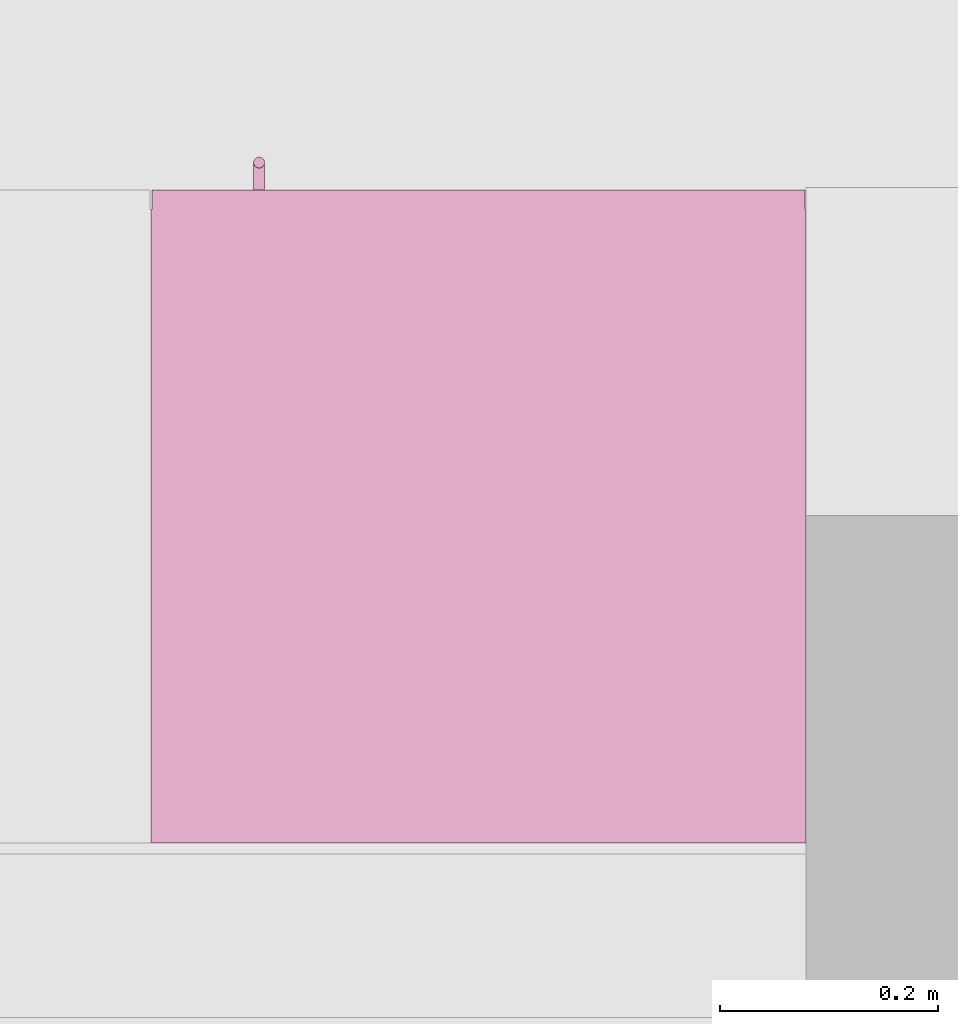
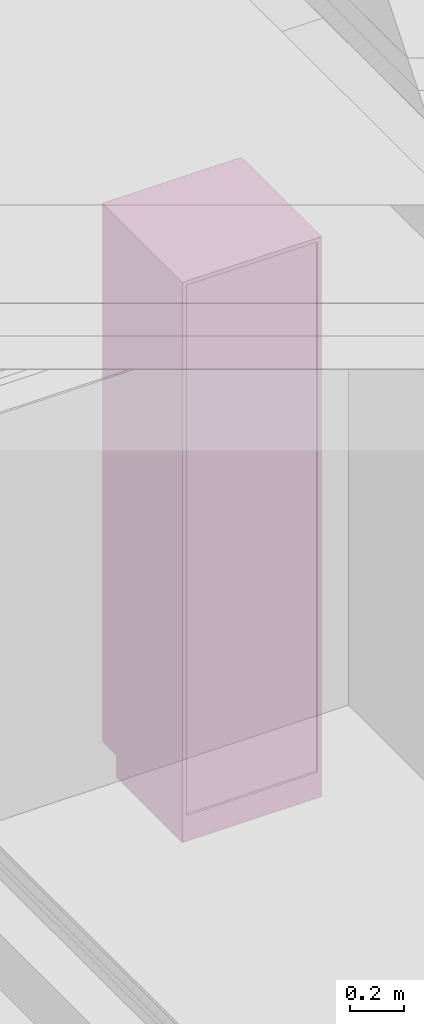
# One storey, part 35 of 36: 1 furniture element.
"""IFC4 building model written with IfcOpenShell, lengths in millimetres."""

from ifc_helpers import new_model, entity, si_unit, converted_unit, derived_unit, direction, frame, origin_with_axes, place, context, subcontext, project, spatial, polygons, source, transform, mapped, type_object, element, save


model = new_model("IFC4")

# Units and contexts
model_context = context("Model", 3, precision=0.01, world=origin_with_axes(), true_north=direction((0.0, 1.0)))
body_context = subcontext(model_context, "Body", "Model", "MODEL_VIEW")
ifc_project = project(units=[si_unit("LENGTHUNIT", "METRE", prefix="MILLI"), si_unit("AREAUNIT", "SQUARE_METRE"), si_unit("VOLUMEUNIT", "CUBIC_METRE"), converted_unit("PLANEANGLEUNIT", "DEGREE", entity("IfcPlaneAngleMeasure", 0.0174532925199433), si_unit("PLANEANGLEUNIT", "RADIAN"), dimensions=[0, 0, 0, 0, 0, 0, 0]), converted_unit("TIMEUNIT", "Year", entity("IfcTimeMeasure", 31557600.0), si_unit("TIMEUNIT", "SECOND"), dimensions=[0, 0, 1, 0, 0, 0, 0]), si_unit("MASSUNIT", "GRAM", prefix="KILO"), si_unit("THERMODYNAMICTEMPERATUREUNIT", "DEGREE_CELSIUS"), si_unit("LUMINOUSINTENSITYUNIT", "LUMEN"), si_unit("ENERGYUNIT", "JOULE", prefix="MEGA"), derived_unit("THERMALCONDUCTANCEUNIT", [(si_unit("POWERUNIT", "WATT"), 1), (si_unit("LENGTHUNIT", "METRE"), -1), (si_unit("THERMODYNAMICTEMPERATUREUNIT", "KELVIN"), -1)]), derived_unit("SPECIFICHEATCAPACITYUNIT", [(si_unit("ENERGYUNIT", "JOULE"), 1), (si_unit("MASSUNIT", "GRAM", prefix="KILO"), -1), (si_unit("THERMODYNAMICTEMPERATUREUNIT", "KELVIN"), -1)]), derived_unit("MASSDENSITYUNIT", [(si_unit("MASSUNIT", "GRAM", prefix="KILO"), 1), (si_unit("VOLUMEUNIT", "CUBIC_METRE"), -1)])], contexts=[model_context])

# Site, building, storey
site_placement = place(None, origin_with_axes())
site = spatial("IfcSite", under=ifc_project, at=site_placement, Name="Gelände", CompositionType="ELEMENT")
building_placement = place(site_placement, origin_with_axes())
building = spatial("IfcBuilding", under=site, at=building_placement, Name="Gebäude", CompositionType="ELEMENT")
storey_placement = place(building_placement, frame((0.0, 0.0, 8700.0), z_axis=(0.0, 0.0, 1.0), x_axis=(1.0, 0.0, 0.0)))
storey = spatial("IfcBuildingStorey", under=building, at=storey_placement, Name="Attika", CompositionType="ELEMENT", Elevation=8700.0)

# Furniture
furniture_type = type_object("IfcFurnitureType", Name="Stehender Schrank Block 27", AssemblyPlace="NOTDEFINED", PredefinedType="NOTDEFINED")
shared_shape = source(origin_with_axes(), body_context, "Body", "Tessellation", [
    polygons([(501.8682408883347, -597.9999999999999, 1377.799012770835), (502.7101007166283, -597.9999999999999, 1377.573437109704), (503.4999999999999, -597.9999999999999, 1377.205101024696), (504.2139380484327, -597.9999999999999, 1376.705196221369), (504.8302222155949, -597.9999999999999, 1376.088912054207), (505.3301270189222, -597.9999999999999, 1375.374974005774), (505.6984631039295, -597.9999999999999, 1374.585074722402), (505.924038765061, -597.9999999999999, 1373.743214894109), (506.0, -597.9999999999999, 1372.874974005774), (505.924038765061, -597.9999999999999, 1372.00673311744), (505.6984631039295, -597.9999999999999, 1371.164873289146), (505.3301270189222, -597.9999999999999, 1370.374974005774), (504.8302222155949, -597.9999999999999, 1369.661035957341), (504.2139380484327, -597.9999999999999, 1369.044751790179), (503.4999999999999, -597.9999999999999, 1368.544846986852), (502.7101007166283, -597.9999999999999, 1368.176510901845), (501.8682408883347, -597.9999999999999, 1367.950935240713), (501.0, -597.9999999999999, 1367.874974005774), (500.1317591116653, -597.9999999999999, 1367.950935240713), (499.2898992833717, -597.9999999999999, 1368.176510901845), (498.5, -597.9999999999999, 1368.544846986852), (497.7860619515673, -597.9999999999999, 1369.044751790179), (497.1697777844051, -597.9999999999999, 1369.661035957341), (496.6698729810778, -597.9999999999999, 1370.374974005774), (496.3015368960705, -597.9999999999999, 1371.164873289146), (496.075961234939, -597.9999999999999, 1372.00673311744), (496.0, -597.9999999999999, 1372.874974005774), (496.075961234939, -597.9999999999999, 1373.743214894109), (496.3015368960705, -597.9999999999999, 1374.585074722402), (496.6698729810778, -597.9999999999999, 1375.374974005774), (497.1697777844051, -597.9999999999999, 1376.088912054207), (497.7860619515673, -597.9999999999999, 1376.705196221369), (498.5, -597.9999999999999, 1377.205101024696), (499.2898992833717, -597.9999999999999, 1377.573437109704), (500.1317591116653, -597.9999999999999, 1377.799012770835), (501.0, -597.9999999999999, 1377.874974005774), (501.8682408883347, -622.9999999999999, 1377.799012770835), (502.7101007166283, -622.9999999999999, 1377.573437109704), (503.4999999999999, -622.9999999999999, 1377.205101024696), (504.2139380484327, -622.9999999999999, 1376.705196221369), (504.8302222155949, -622.9999999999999, 1376.088912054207), (505.3301270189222, -622.9999999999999, 1375.374974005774), (505.6984631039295, -622.9999999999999, 1374.585074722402), (505.924038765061, -622.9999999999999, 1373.743214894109), (506.0, -622.9999999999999, 1372.874974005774), (505.924038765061, -622.9999999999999, 1372.00673311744), (505.6984631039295, -622.9999999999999, 1371.164873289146), (505.3301270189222, -622.9999999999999, 1370.374974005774), (504.8302222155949, -622.9999999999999, 1369.661035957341), (504.2139380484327, -622.9999999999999, 1369.044751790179), (503.4999999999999, -622.9999999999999, 1368.544846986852), (502.7101007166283, -622.9999999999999, 1368.176510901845), (501.8682408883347, -622.9999999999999, 1367.950935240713), (501.0, -622.9999999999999, 1367.874974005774), (500.1317591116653, -622.9999999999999, 1367.950935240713), (499.2898992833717, -622.9999999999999, 1368.176510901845), (498.5, -622.9999999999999, 1368.544846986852), (497.7860619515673, -622.9999999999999, 1369.044751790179), (497.1697777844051, -622.9999999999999, 1369.661035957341), (496.6698729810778, -622.9999999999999, 1370.374974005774), (496.3015368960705, -622.9999999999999, 1371.164873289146), (496.075961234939, -622.9999999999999, 1372.00673311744), (496.0, -622.9999999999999, 1372.874974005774), (496.075961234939, -622.9999999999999, 1373.743214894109), (496.3015368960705, -622.9999999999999, 1374.585074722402), (496.6698729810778, -622.9999999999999, 1375.374974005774), (497.1697777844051, -622.9999999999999, 1376.088912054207), (497.7860619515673, -622.9999999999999, 1376.705196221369), (498.5, -622.9999999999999, 1377.205101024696), (499.2898992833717, -622.9999999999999, 1377.573437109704), (500.1317591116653, -622.9999999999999, 1377.799012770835), (501.0, -622.9999999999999, 1377.874974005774)], [[[1, 2, 3, 4, 5, 6, 7, 8, 9, 10, 11, 12, 13, 14, 15, 16, 17, 18, 19, 20, 21, 22, 23, 24, 25, 26, 27, 28, 29, 30, 31, 32, 33, 34, 35, 36]], [[2, 1, 37, 38]], [[3, 2, 38, 39]], [[4, 3, 39, 40]], [[5, 4, 40, 41]], [[6, 5, 41, 42]], [[7, 6, 42, 43]], [[8, 7, 43, 44]], [[9, 8, 44, 45]], [[10, 9, 45, 46]], [[11, 10, 46, 47]], [[12, 11, 47, 48]], [[13, 12, 48, 49]], [[14, 13, 49, 50]], [[15, 14, 50, 51]], [[16, 15, 51, 52]], [[17, 16, 52, 53]], [[18, 17, 53, 54]], [[19, 18, 54, 55]], [[20, 19, 55, 56]], [[21, 20, 56, 57]], [[22, 21, 57, 58]], [[23, 22, 58, 59]], [[24, 23, 59, 60]], [[25, 24, 60, 61]], [[26, 25, 61, 62]], [[27, 26, 62, 63]], [[28, 27, 63, 64]], [[29, 28, 64, 65]], [[30, 29, 65, 66]], [[31, 30, 66, 67]], [[32, 31, 67, 68]], [[33, 32, 68, 69]], [[34, 33, 69, 70]], [[35, 34, 70, 71]], [[36, 35, 71, 72]], [[1, 36, 72, 37]], [[37, 72, 71, 70, 69, 68, 67, 66, 65, 64, 63, 62, 61, 60, 59, 58, 57, 56, 55, 54, 53, 52, 51, 50, 49, 48, 47, 46, 45, 44, 43, 42, 41, 40, 39, 38]]], closed=True),
    polygons([(501.8682408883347, -597.9999999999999, 1274.200935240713), (501.0, -597.9999999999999, 1274.124974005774), (500.1317591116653, -597.9999999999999, 1274.200935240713), (499.2898992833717, -597.9999999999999, 1274.426510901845), (498.5, -597.9999999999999, 1274.794846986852), (497.7860619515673, -597.9999999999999, 1275.294751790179), (497.1697777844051, -597.9999999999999, 1275.911035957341), (496.6698729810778, -597.9999999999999, 1276.624974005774), (496.3015368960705, -597.9999999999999, 1277.414873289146), (496.075961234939, -597.9999999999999, 1278.25673311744), (496.0, -597.9999999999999, 1279.124974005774), (496.075961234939, -597.9999999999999, 1279.993214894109), (496.3015368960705, -597.9999999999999, 1280.835074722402), (496.6698729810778, -597.9999999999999, 1281.624974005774), (497.1697777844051, -597.9999999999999, 1282.338912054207), (497.7860619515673, -597.9999999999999, 1282.955196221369), (498.5, -597.9999999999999, 1283.455101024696), (499.2898992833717, -597.9999999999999, 1283.823437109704), (500.1317591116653, -597.9999999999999, 1284.049012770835), (501.0, -597.9999999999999, 1284.124974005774), (501.8682408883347, -597.9999999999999, 1284.049012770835), (502.7101007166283, -597.9999999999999, 1283.823437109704), (503.4999999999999, -597.9999999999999, 1283.455101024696), (504.2139380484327, -597.9999999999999, 1282.955196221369), (504.8302222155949, -597.9999999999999, 1282.338912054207), (505.3301270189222, -597.9999999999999, 1281.624974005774), (505.6984631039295, -597.9999999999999, 1280.835074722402), (505.924038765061, -597.9999999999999, 1279.993214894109), (506.0, -597.9999999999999, 1279.124974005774), (505.924038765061, -597.9999999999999, 1278.25673311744), (505.6984631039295, -597.9999999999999, 1277.414873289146), (505.3301270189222, -597.9999999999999, 1276.624974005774), (504.8302222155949, -597.9999999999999, 1275.911035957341), (504.2139380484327, -597.9999999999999, 1275.294751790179), (503.4999999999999, -597.9999999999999, 1274.794846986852), (502.7101007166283, -597.9999999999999, 1274.426510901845), (501.8682408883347, -622.9999999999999, 1274.200935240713), (501.0, -622.9999999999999, 1274.124974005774), (500.1317591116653, -622.9999999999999, 1274.200935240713), (499.2898992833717, -622.9999999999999, 1274.426510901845), (498.5, -622.9999999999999, 1274.794846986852), (497.7860619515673, -622.9999999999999, 1275.294751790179), (497.1697777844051, -622.9999999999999, 1275.911035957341), (496.6698729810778, -622.9999999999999, 1276.624974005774), (496.3015368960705, -622.9999999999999, 1277.414873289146), (496.075961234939, -622.9999999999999, 1278.25673311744), (496.0, -622.9999999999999, 1279.124974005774), (496.075961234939, -622.9999999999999, 1279.993214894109), (496.3015368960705, -622.9999999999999, 1280.835074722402), (496.6698729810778, -622.9999999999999, 1281.624974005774), (497.1697777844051, -622.9999999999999, 1282.338912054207), (497.7860619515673, -622.9999999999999, 1282.955196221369), (498.5, -622.9999999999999, 1283.455101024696), (499.2898992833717, -622.9999999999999, 1283.823437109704), (500.1317591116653, -622.9999999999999, 1284.049012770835), (501.0, -622.9999999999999, 1284.124974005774), (501.8682408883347, -622.9999999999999, 1284.049012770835), (502.7101007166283, -622.9999999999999, 1283.823437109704), (503.4999999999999, -622.9999999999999, 1283.455101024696), (504.2139380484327, -622.9999999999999, 1282.955196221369), (504.8302222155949, -622.9999999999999, 1282.338912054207), (505.3301270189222, -622.9999999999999, 1281.624974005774), (505.6984631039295, -622.9999999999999, 1280.835074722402), (505.924038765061, -622.9999999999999, 1279.993214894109), (506.0, -622.9999999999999, 1279.124974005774), (505.924038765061, -622.9999999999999, 1278.25673311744), (505.6984631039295, -622.9999999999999, 1277.414873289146), (505.3301270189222, -622.9999999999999, 1276.624974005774), (504.8302222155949, -622.9999999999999, 1275.911035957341), (504.2139380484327, -622.9999999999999, 1275.294751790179), (503.4999999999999, -622.9999999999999, 1274.794846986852), (502.7101007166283, -622.9999999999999, 1274.426510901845)], [[[1, 2, 3, 4, 5, 6, 7, 8, 9, 10, 11, 12, 13, 14, 15, 16, 17, 18, 19, 20, 21, 22, 23, 24, 25, 26, 27, 28, 29, 30, 31, 32, 33, 34, 35, 36]], [[1, 37, 38, 2]], [[2, 38, 39, 3]], [[3, 39, 40, 4]], [[4, 40, 41, 5]], [[5, 41, 42, 6]], [[6, 42, 43, 7]], [[7, 43, 44, 8]], [[8, 44, 45, 9]], [[9, 45, 46, 10]], [[10, 46, 47, 11]], [[11, 47, 48, 12]], [[12, 48, 49, 13]], [[13, 49, 50, 14]], [[14, 50, 51, 15]], [[15, 51, 52, 16]], [[16, 52, 53, 17]], [[17, 53, 54, 18]], [[18, 54, 55, 19]], [[19, 55, 56, 20]], [[20, 56, 57, 21]], [[21, 57, 58, 22]], [[22, 58, 59, 23]], [[23, 59, 60, 24]], [[24, 60, 61, 25]], [[25, 61, 62, 26]], [[26, 62, 63, 27]], [[27, 63, 64, 28]], [[28, 64, 65, 29]], [[29, 65, 66, 30]], [[30, 66, 67, 31]], [[31, 67, 68, 32]], [[32, 68, 69, 33]], [[33, 69, 70, 34]], [[34, 70, 71, 35]], [[35, 71, 72, 36]], [[36, 72, 37, 1]], [[37, 72, 71, 70, 69, 68, 67, 66, 65, 64, 63, 62, 61, 60, 59, 58, 57, 56, 55, 54, 53, 52, 51, 50, 49, 48, 47, 46, 45, 44, 43, 42, 41, 40, 39, 38]]], closed=True),
    polygons([(501.8682408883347, -618.0759612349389, 1250.999974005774), (502.7101007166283, -618.3015368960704, 1250.999974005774), (503.4999999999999, -618.6698729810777, 1250.999974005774), (504.2139380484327, -619.1697777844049, 1250.999974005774), (504.8302222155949, -619.7860619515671, 1250.999974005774), (505.3301270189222, -620.4999999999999, 1250.999974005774), (505.6984631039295, -621.2898992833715, 1250.999974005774), (505.924038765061, -622.1317591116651, 1250.999974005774), (506.0, -622.9999999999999, 1250.999974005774), (505.924038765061, -623.8682408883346, 1250.999974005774), (505.6984631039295, -624.7101007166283, 1250.999974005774), (505.3301270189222, -625.4999999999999, 1250.999974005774), (504.8302222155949, -626.2139380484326, 1250.999974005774), (504.2139380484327, -626.8302222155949, 1250.999974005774), (503.4999999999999, -627.3301270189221, 1250.999974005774), (502.7101007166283, -627.6984631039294, 1250.999974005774), (501.8682408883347, -627.924038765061, 1250.999974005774), (501.0, -627.9999999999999, 1250.999974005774), (500.1317591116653, -627.924038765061, 1250.999974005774), (499.2898992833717, -627.6984631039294, 1250.999974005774), (498.5, -627.3301270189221, 1250.999974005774), (497.7860619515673, -626.8302222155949, 1250.999974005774), (497.1697777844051, -626.2139380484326, 1250.999974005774), (496.6698729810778, -625.4999999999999, 1250.999974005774), (496.3015368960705, -624.7101007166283, 1250.999974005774), (496.075961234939, -623.8682408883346, 1250.999974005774), (496.0, -622.9999999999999, 1250.999974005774), (496.075961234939, -622.1317591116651, 1250.999974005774), (496.3015368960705, -621.2898992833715, 1250.999974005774), (496.6698729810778, -620.4999999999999, 1250.999974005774), (497.1697777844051, -619.7860619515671, 1250.999974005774), (497.7860619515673, -619.1697777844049, 1250.999974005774), (498.5, -618.6698729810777, 1250.999974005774), (499.2898992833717, -618.3015368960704, 1250.999974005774), (500.1317591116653, -618.0759612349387, 1250.999974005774), (501.0, -617.9999999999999, 1250.999974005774), (501.8682408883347, -618.0759612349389, 1400.999974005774), (502.7101007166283, -618.3015368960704, 1400.999974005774), (503.5000000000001, -618.6698729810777, 1400.999974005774), (504.2139380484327, -619.1697777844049, 1400.999974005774), (504.8302222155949, -619.7860619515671, 1400.999974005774), (505.3301270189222, -620.4999999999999, 1400.999974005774), (505.6984631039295, -621.2898992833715, 1400.999974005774), (505.9240387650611, -622.1317591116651, 1400.999974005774), (506.0, -622.9999999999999, 1400.999974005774), (505.9240387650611, -623.8682408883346, 1400.999974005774), (505.6984631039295, -624.7101007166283, 1400.999974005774), (505.3301270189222, -625.4999999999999, 1400.999974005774), (504.8302222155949, -626.2139380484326, 1400.999974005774), (504.2139380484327, -626.8302222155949, 1400.999974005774), (503.5000000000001, -627.3301270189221, 1400.999974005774), (502.7101007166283, -627.6984631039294, 1400.999974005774), (501.8682408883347, -627.924038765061, 1400.999974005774), (501.0, -627.9999999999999, 1400.999974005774), (500.1317591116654, -627.924038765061, 1400.999974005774), (499.2898992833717, -627.6984631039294, 1400.999974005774), (498.5, -627.3301270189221, 1400.999974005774), (497.7860619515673, -626.8302222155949, 1400.999974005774), (497.1697777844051, -626.2139380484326, 1400.999974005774), (496.6698729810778, -625.4999999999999, 1400.999974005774), (496.3015368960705, -624.7101007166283, 1400.999974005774), (496.075961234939, -623.8682408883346, 1400.999974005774), (496.0, -622.9999999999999, 1400.999974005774), (496.075961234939, -622.1317591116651, 1400.999974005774), (496.3015368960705, -621.2898992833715, 1400.999974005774), (496.6698729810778, -620.4999999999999, 1400.999974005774), (497.1697777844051, -619.7860619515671, 1400.999974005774), (497.7860619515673, -619.1697777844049, 1400.999974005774), (498.5, -618.6698729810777, 1400.999974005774), (499.2898992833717, -618.3015368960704, 1400.999974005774), (500.1317591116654, -618.0759612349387, 1400.999974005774), (501.0, -617.9999999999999, 1400.999974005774)], [[[1, 2, 3, 4, 5, 6, 7, 8, 9, 10, 11, 12, 13, 14, 15, 16, 17, 18, 19, 20, 21, 22, 23, 24, 25, 26, 27, 28, 29, 30, 31, 32, 33, 34, 35, 36]], [[2, 1, 37, 38]], [[3, 2, 38, 39]], [[4, 3, 39, 40]], [[5, 4, 40, 41]], [[6, 5, 41, 42]], [[7, 6, 42, 43]], [[8, 7, 43, 44]], [[9, 8, 44, 45]], [[10, 9, 45, 46]], [[11, 10, 46, 47]], [[12, 11, 47, 48]], [[13, 12, 48, 49]], [[14, 13, 49, 50]], [[15, 14, 50, 51]], [[16, 15, 51, 52]], [[17, 16, 52, 53]], [[18, 17, 53, 54]], [[19, 18, 54, 55]], [[20, 19, 55, 56]], [[21, 20, 56, 57]], [[22, 21, 57, 58]], [[23, 22, 58, 59]], [[24, 23, 59, 60]], [[25, 24, 60, 61]], [[26, 25, 61, 62]], [[27, 26, 62, 63]], [[28, 27, 63, 64]], [[29, 28, 64, 65]], [[30, 29, 65, 66]], [[31, 30, 66, 67]], [[32, 31, 67, 68]], [[33, 32, 68, 69]], [[34, 33, 69, 70]], [[35, 34, 70, 71]], [[36, 35, 71, 72]], [[1, 36, 72, 37]], [[37, 72, 71, 70, 69, 68, 67, 66, 65, 64, 63, 62, 61, 60, 59, 58, 57, 56, 55, 54, 53, 52, 51, 50, 49, 48, 47, 46, 45, 44, 43, 42, 41, 40, 39, 38]]], closed=True),
    polygons([(1.0, -580.0, 101.0), (599.0, -580.0, 101.0), (599.0, -598.0, 101.0), (1.0, -598.0, 101.0), (1.0, -579.9999999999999, 2548.999948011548), (599.0, -579.9999999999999, 2548.999948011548), (599.0, -597.9999999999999, 2548.999948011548), (1.0, -597.9999999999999, 2548.999948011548)], [[[1, 2, 3, 4]], [[1, 5, 6, 2]], [[2, 6, 7, 3]], [[4, 3, 7, 8]], [[5, 1, 4, 8]], [[6, 5, 8, 7]]], closed=True),
    polygons([(18.0, -580.0, 100.0), (582.0, -580.0, 100.0), (582.0, -580.0, 118.0), (18.0, -580.0, 118.0), (18.0, 0.0, 100.0), (582.0, 0.0, 100.0), (582.0, 0.0, 118.0), (18.0, 0.0, 118.0)], [[[1, 2, 3, 4]], [[1, 5, 6, 2]], [[2, 6, 7, 3]], [[4, 3, 7, 8]], [[5, 1, 4, 8]], [[6, 5, 8, 7]]], closed=True),
    polygons([(18.0, -580.0, 2531.999948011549), (582.0, -580.0, 2531.999948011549), (582.0, -580.0, 2549.999948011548), (18.0, -580.0, 2549.999948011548), (18.0, 0.0, 2531.999948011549), (582.0, 0.0, 2531.999948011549), (582.0, 0.0, 2549.999948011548), (18.0, 0.0, 2549.999948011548)], [[[1, 2, 3, 4]], [[1, 5, 6, 2]], [[2, 6, 7, 3]], [[4, 3, 7, 8]], [[5, 1, 4, 8]], [[6, 5, 8, 7]]], closed=True),
    polygons([(0.0, 0.0, 100.0), (0.0, -580.0, 100.0), (0.0, -580.0, 2549.999948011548), (0.0, 0.0, 2549.999948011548), (18.0, 0.0, 100.0), (18.0, -580.0, 100.0), (18.0, -580.0, 2549.999948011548), (18.0, 0.0, 2549.999948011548)], [[[1, 2, 3, 4]], [[1, 5, 6, 2]], [[2, 6, 7, 3]], [[4, 3, 7, 8]], [[5, 1, 4, 8]], [[6, 5, 8, 7]]], closed=True),
    polygons([(600.0, -580.0, 100.0), (600.0, 0.0, 100.0), (600.0, 0.0, 2549.999948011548), (600.0, -580.0, 2549.999948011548), (582.0, -580.0, 100.0), (582.0, 0.0, 100.0), (582.0, 0.0, 2549.999948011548), (582.0, -580.0, 2549.999948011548)], [[[1, 2, 3, 4]], [[1, 5, 6, 2]], [[2, 6, 7, 3]], [[4, 3, 7, 8]], [[5, 1, 4, 8]], [[6, 5, 8, 7]]], closed=True),
    polygons([(582.0, -9.0, 118.0), (18.00000000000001, -9.0, 118.0), (18.00000000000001, -9.0, 2531.999948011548), (582.0, -9.0, 2531.999948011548), (582.0, -18.0, 118.0), (18.00000000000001, -18.0, 118.0), (18.00000000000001, -18.0, 2531.999948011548), (582.0, -18.0, 2531.999948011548)], [[[1, 2, 3, 4]], [[1, 5, 6, 2]], [[2, 6, 7, 3]], [[4, 3, 7, 8]], [[5, 1, 4, 8]], [[6, 5, 8, 7]]], closed=True),
    polygons([(0.0, -490.0, 0.0), (600.0, -490.0, 0.0), (600.0, -490.0, 100.0), (0.0, -490.0, 100.0), (0.0, 0.0, 0.0), (600.0, 0.0, 0.0), (600.0, 0.0, 100.0), (0.0, 0.0, 100.0)], [[[1, 2, 3, 4]], [[1, 5, 6, 2]], [[2, 6, 7, 3]], [[4, 3, 7, 8]], [[5, 1, 4, 8]], [[6, 5, 8, 7]]], closed=True),
])
furniture_placement = place(storey_placement, frame((11928.99744477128, 34847.59728131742, 99.99999999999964), z_axis=(0.0, 0.0, 1.0), x_axis=(-1.0, 0.0, 0.0)))
element("IfcFurniture", 1, at=furniture_placement, inside=storey, type_object=furniture_type, Name="Möbel-021", PredefinedType="NOTDEFINED", context=body_context, shape_type="MappedRepresentation", body=[
    mapped(shared_shape, transform((0.0, 0.0, 0.0))),
])

save(model, "model.ifc")
